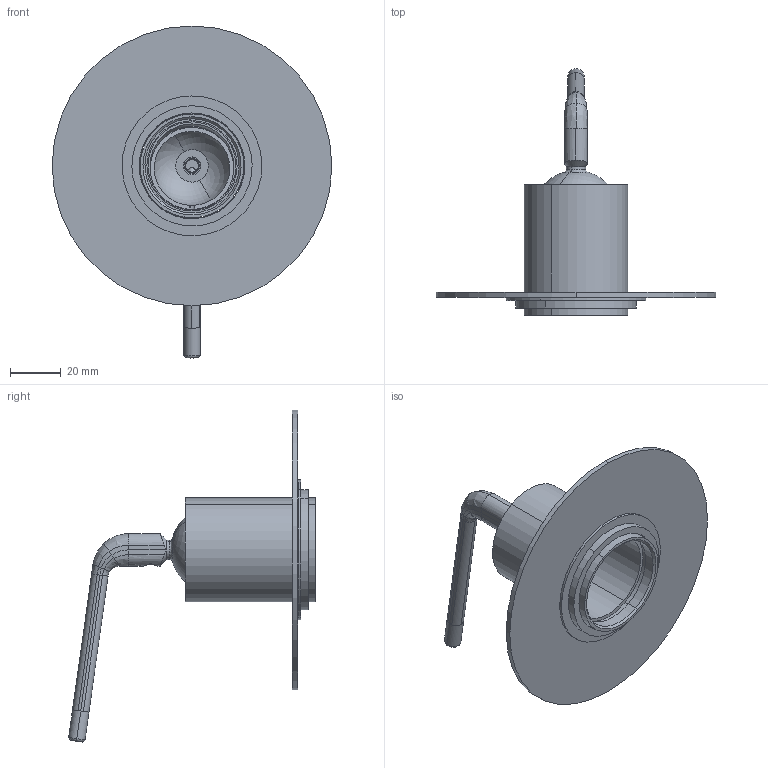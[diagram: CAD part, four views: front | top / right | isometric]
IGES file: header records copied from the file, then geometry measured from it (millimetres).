
Start section: Dassault Systemes - www.3ds.com
Global section: file name: 68476E.igs; native system: DASSAULT SYSTEMES CATIA V6R2013.HF20 - www.3ds.com; preprocessor: V6R2013.HF20 B6.213.20.0_20130213T190026Z; author: prog02; organization: NEWFORMSPA; date: 20170510.140433; units: millimetre
Bounding box: 110 x 97.02 x 130.57 mm (x, y, z)
Volume: 40318.3 mm3; surface area: 44615.7 mm2
Topology: 9 solids, 9 shells, 244 faces, 553 edges, 328 vertices
Faces by surface type: revolution 144, plane 72, bspline 28
